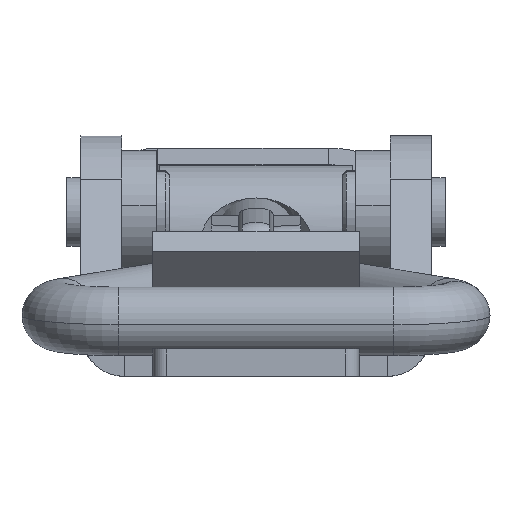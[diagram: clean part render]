
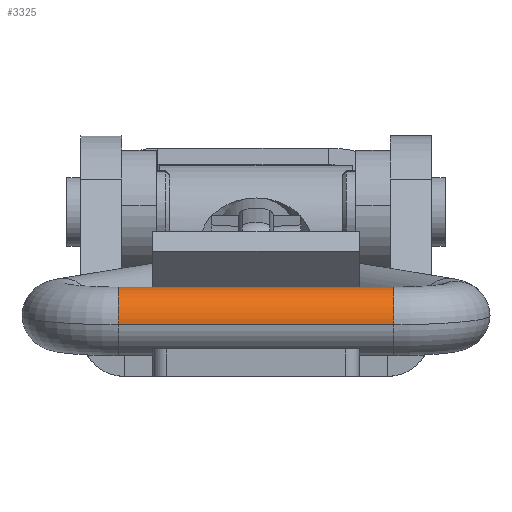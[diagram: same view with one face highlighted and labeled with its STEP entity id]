
A CAD part, front view. The second image highlights one B-rep face of the part: STEP entity #3325.
In plain terms, the highlighted cylindrical face has radius 2.5 mm (diameter 5 mm), a partial arc.
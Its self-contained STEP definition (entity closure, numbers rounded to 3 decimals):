
#115 = VERTEX_POINT ( 'NONE', #3213 ) ;
#198 = AXIS2_PLACEMENT_3D ( 'NONE', #7412, #4573, #548 ) ;
#245 = EDGE_LOOP ( 'NONE', ( #7109, #3562, #7045, #1809 ) ) ;
#256 = DIRECTION ( 'NONE',  ( -1., 0., 0. ) ) ;
#281 = EDGE_CURVE ( 'NONE', #115, #1383, #6581, .T. ) ;
#548 = DIRECTION ( 'NONE',  ( 0., -1., 0. ) ) ;
#607 = EDGE_CURVE ( 'NONE', #1383, #5072, #3091, .T. ) ;
#619 = DIRECTION ( 'NONE',  ( 0., -1., 0. ) ) ;
#1092 = DIRECTION ( 'NONE',  ( 0., -1., 0. ) ) ;
#1305 = CARTESIAN_POINT ( 'NONE',  ( 10., 35.155, 0. ) ) ;
#1383 = VERTEX_POINT ( 'NONE', #2697 ) ;
#1478 = EDGE_CURVE ( 'NONE', #115, #2851, #6853, .T. ) ;
#1592 = FACE_OUTER_BOUND ( 'NONE', #245, .T. ) ;
#1809 = ORIENTED_EDGE ( 'NONE', *, *, #607, .T. ) ;
#2446 = AXIS2_PLACEMENT_3D ( 'NONE', #1305, #5768, #1092 ) ;
#2697 = CARTESIAN_POINT ( 'NONE',  ( -10., 32.655, 0. ) ) ;
#2849 = VECTOR ( 'NONE', #5393, 1000. ) ;
#2851 = VERTEX_POINT ( 'NONE', #6794 ) ;
#3091 = CIRCLE ( 'NONE', #4799, 2.5 ) ;
#3171 = CYLINDRICAL_SURFACE ( 'NONE', #198, 2.5 ) ;
#3180 = CARTESIAN_POINT ( 'NONE',  ( 10., 32.655, 0. ) ) ;
#3213 = CARTESIAN_POINT ( 'NONE',  ( 10., 32.655, 0. ) ) ;
#3325 = ADVANCED_FACE ( 'NONE', ( #1592 ), #3171, .T. ) ;
#3525 = VECTOR ( 'NONE', #256, 1000. ) ;
#3562 = ORIENTED_EDGE ( 'NONE', *, *, #1478, .F. ) ;
#4573 = DIRECTION ( 'NONE',  ( -1., 0., 0. ) ) ;
#4799 = AXIS2_PLACEMENT_3D ( 'NONE', #5134, #7258, #619 ) ;
#5072 = VERTEX_POINT ( 'NONE', #5812 ) ;
#5134 = CARTESIAN_POINT ( 'NONE',  ( -10., 35.155, 0. ) ) ;
#5393 = DIRECTION ( 'NONE',  ( -1., 0., 0. ) ) ;
#5768 = DIRECTION ( 'NONE',  ( 1., 0., 0. ) ) ;
#5812 = CARTESIAN_POINT ( 'NONE',  ( -10., 37.655, 0. ) ) ;
#6169 = LINE ( 'NONE', #7127, #2849 ) ;
#6581 = LINE ( 'NONE', #3180, #3525 ) ;
#6794 = CARTESIAN_POINT ( 'NONE',  ( 10., 37.655, 0. ) ) ;
#6853 = CIRCLE ( 'NONE', #2446, 2.5 ) ;
#7045 = ORIENTED_EDGE ( 'NONE', *, *, #281, .T. ) ;
#7060 = EDGE_CURVE ( 'NONE', #2851, #5072, #6169, .T. ) ;
#7109 = ORIENTED_EDGE ( 'NONE', *, *, #7060, .F. ) ;
#7127 = CARTESIAN_POINT ( 'NONE',  ( 10., 37.655, 0. ) ) ;
#7258 = DIRECTION ( 'NONE',  ( 1., 0., 0. ) ) ;
#7412 = CARTESIAN_POINT ( 'NONE',  ( 10., 35.155, 0. ) ) ;
